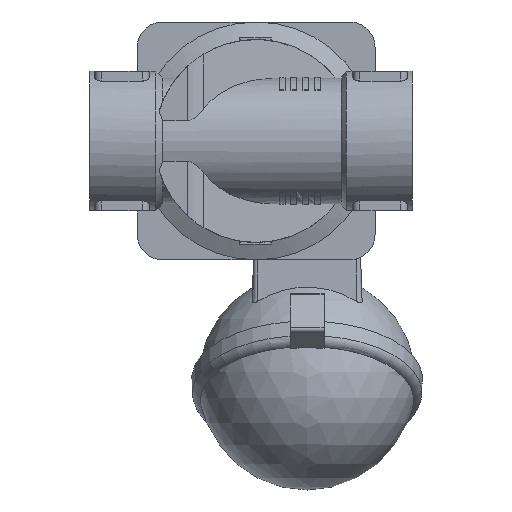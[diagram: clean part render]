
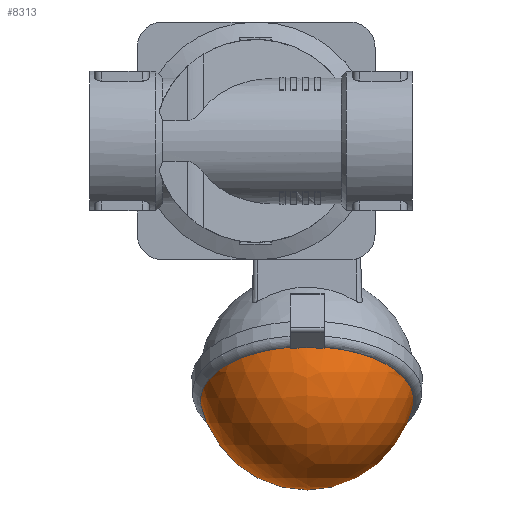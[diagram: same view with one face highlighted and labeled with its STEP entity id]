
A CAD part, front view. The second image highlights one B-rep face of the part: STEP entity #8313.
In plain terms, the highlighted spherical face has radius 32 mm.
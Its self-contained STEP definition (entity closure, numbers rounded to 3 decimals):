
#20=SPHERICAL_SURFACE('',#8944,32.);
#2804=ORIENTED_EDGE('',*,*,#4152,.F.);
#2805=ORIENTED_EDGE('',*,*,#4153,.T.);
#2806=ORIENTED_EDGE('',*,*,#4154,.T.);
#2807=ORIENTED_EDGE('',*,*,#4155,.F.);
#2808=ORIENTED_EDGE('',*,*,#4156,.F.);
#2809=ORIENTED_EDGE('',*,*,#4157,.F.);
#2810=ORIENTED_EDGE('',*,*,#4158,.T.);
#2811=ORIENTED_EDGE('',*,*,#4159,.T.);
#4152=EDGE_CURVE('',#4929,#4930,#5315,.F.);
#4153=EDGE_CURVE('',#4929,#4931,#5316,.F.);
#4154=EDGE_CURVE('',#4931,#4932,#5317,.F.);
#4155=EDGE_CURVE('',#4933,#4932,#5318,.F.);
#4156=EDGE_CURVE('',#4934,#4933,#5319,.F.);
#4157=EDGE_CURVE('',#4935,#4934,#5320,.F.);
#4158=EDGE_CURVE('',#4935,#4936,#5321,.F.);
#4159=EDGE_CURVE('',#4936,#4930,#5322,.F.);
#4929=VERTEX_POINT('',#12947);
#4930=VERTEX_POINT('',#12948);
#4931=VERTEX_POINT('',#12950);
#4932=VERTEX_POINT('',#12952);
#4933=VERTEX_POINT('',#12954);
#4934=VERTEX_POINT('',#12956);
#4935=VERTEX_POINT('',#12958);
#4936=VERTEX_POINT('',#12960);
#5315=CIRCLE('',#8945,31.368);
#5316=CIRCLE('',#8946,31.607);
#5317=CIRCLE('',#8947,31.291);
#5318=CIRCLE('',#8948,31.607);
#5319=CIRCLE('',#8949,31.368);
#5320=CIRCLE('',#8950,30.708);
#5321=CIRCLE('',#8951,30.984);
#5322=CIRCLE('',#8952,30.708);
#5700=EDGE_LOOP('',(#2804,#2805,#2806,#2807,#2808,#2809,#2810,#2811));
#6136=FACE_BOUND('',#5700,.T.);
#8313=ADVANCED_FACE('',(#6136),#20,.T.);
#8944=AXIS2_PLACEMENT_3D('',#12945,#10559,#10560);
#8945=AXIS2_PLACEMENT_3D('',#12946,#10561,#10562);
#8946=AXIS2_PLACEMENT_3D('',#12949,#10563,#10564);
#8947=AXIS2_PLACEMENT_3D('',#12951,#10565,#10566);
#8948=AXIS2_PLACEMENT_3D('',#12953,#10567,#10568);
#8949=AXIS2_PLACEMENT_3D('',#12955,#10569,#10570);
#8950=AXIS2_PLACEMENT_3D('',#12957,#10571,#10572);
#8951=AXIS2_PLACEMENT_3D('',#12959,#10573,#10574);
#8952=AXIS2_PLACEMENT_3D('',#12961,#10575,#10576);
#10559=DIRECTION('',(1.,0.,0.));
#10560=DIRECTION('',(0.,-1.,0.));
#10561=DIRECTION('',(-0.866,-0.5,0.));
#10562=DIRECTION('',(0.5,-0.866,0.));
#10563=DIRECTION('',(0.,0.,1.));
#10564=DIRECTION('',(1.,0.,0.));
#10565=DIRECTION('',(0.866,0.5,0.));
#10566=DIRECTION('',(-0.5,0.866,0.));
#10567=DIRECTION('',(0.,0.,1.));
#10568=DIRECTION('',(1.,0.,0.));
#10569=DIRECTION('',(-0.866,-0.5,0.));
#10570=DIRECTION('',(0.5,-0.866,0.));
#10571=DIRECTION('',(0.,0.,1.));
#10572=DIRECTION('',(1.,0.,0.));
#10573=DIRECTION('',(0.866,0.5,0.));
#10574=DIRECTION('',(-0.5,0.866,0.));
#10575=DIRECTION('',(0.,0.,1.));
#10576=DIRECTION('',(1.,0.,0.));
#12945=CARTESIAN_POINT('',(-70.7,0.,0.));
#12946=CARTESIAN_POINT('',(-76.183,-3.165,0.));
#12947=CARTESIAN_POINT('',(-60.699,-29.983,-5.));
#12948=CARTESIAN_POINT('',(-91.207,22.858,-9.));
#12949=CARTESIAN_POINT('',(-70.7,0.,-5.));
#12950=CARTESIAN_POINT('',(-61.058,-30.1,-5.));
#12951=CARTESIAN_POINT('',(-76.502,-3.35,0.));
#12952=CARTESIAN_POINT('',(-61.058,-30.1,5.));
#12953=CARTESIAN_POINT('',(-70.7,0.,5.));
#12954=CARTESIAN_POINT('',(-60.699,-29.983,5.));
#12955=CARTESIAN_POINT('',(-76.183,-3.165,0.));
#12956=CARTESIAN_POINT('',(-91.207,22.858,9.));
#12957=CARTESIAN_POINT('',(-70.7,0.,9.));
#12958=CARTESIAN_POINT('',(-92.452,21.676,9.));
#12959=CARTESIAN_POINT('',(-77.628,-4.,0.));
#12960=CARTESIAN_POINT('',(-92.452,21.676,-9.));
#12961=CARTESIAN_POINT('',(-70.7,0.,-9.));
